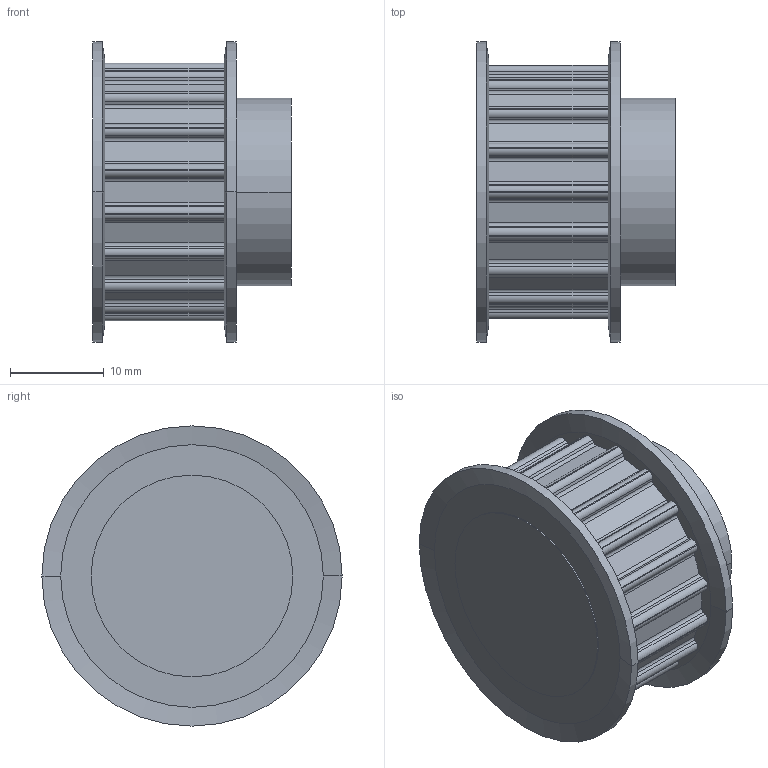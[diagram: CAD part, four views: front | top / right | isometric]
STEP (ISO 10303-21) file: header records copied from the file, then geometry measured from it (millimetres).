
FILE_DESCRIPTION( ( '' ), '1' );
FILE_NAME( 'C:/Users/Stangenbergd/Documents/CAD_Step/1/16621800.stp', '2021-10-19T09:33:48', ( '' ), ( '' ), ' ', ' ', ' ' );
FILE_SCHEMA( ( 'CONFIG_CONTROL_DESIGN' ) );
Length unit declared in the file: millimetre
Products named in the file (1): 1
Bounding box: 21.13 x 32 x 32 mm (x, y, z)
Volume: 10314.6 mm3; surface area: 4049.7 mm2
Topology: 1 solids, 1 shells, 169 faces, 478 edges, 316 vertices
Faces by surface type: cylinder 100, plane 61, cone 8
Entity records: 5600 total; most frequent: DIRECTION 1026, CARTESIAN_POINT 964, ORIENTED_EDGE 956, EDGE_CURVE 478, AXIS2_PLACEMENT_3D 378, VERTEX_POINT 316, LINE 270, VECTOR 270
